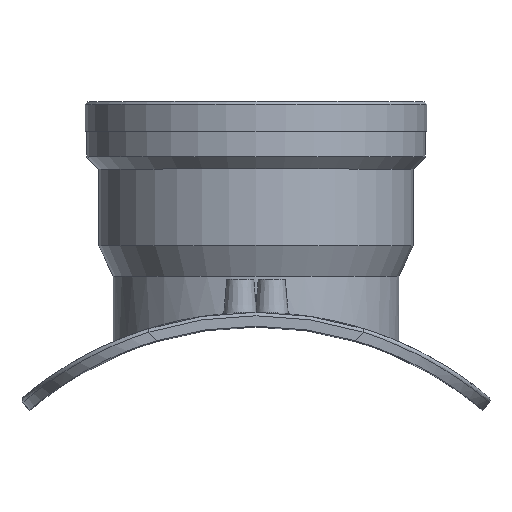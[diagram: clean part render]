
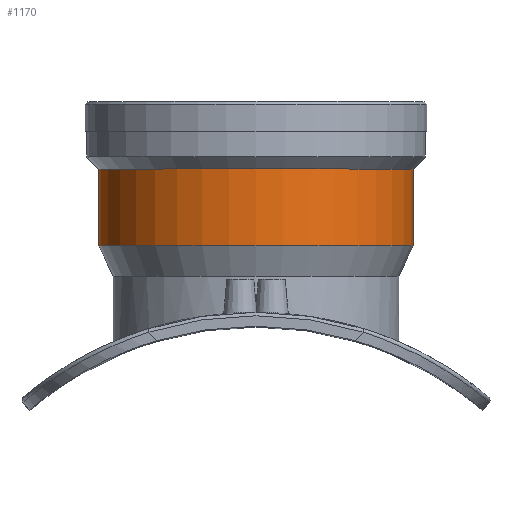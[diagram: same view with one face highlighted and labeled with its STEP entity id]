
A CAD part, top view. The second image highlights one B-rep face of the part: STEP entity #1170.
In plain terms, the highlighted cylindrical face has radius 87.273 mm (diameter 174.546 mm), a full revolution.
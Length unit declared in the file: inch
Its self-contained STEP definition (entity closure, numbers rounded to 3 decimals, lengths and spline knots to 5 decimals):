
#129=FACE_OUTER_BOUND('',#207,.T.);
#207=EDGE_LOOP('',(#1053,#1054,#1055,#1056,#1057,#1058));
#282=CIRCLE('',#1321,3.43594);
#283=CIRCLE('',#1322,3.43594);
#284=CIRCLE('',#1324,3.43594);
#285=CIRCLE('',#1325,3.43594);
#339=LINE('',#3074,#391);
#391=VECTOR('',#1648,3.43594);
#545=VERTEX_POINT('',#3064);
#546=VERTEX_POINT('',#3065);
#547=VERTEX_POINT('',#3070);
#548=VERTEX_POINT('',#3071);
#715=EDGE_CURVE('',#545,#546,#282,.T.);
#716=EDGE_CURVE('',#546,#545,#283,.T.);
#718=EDGE_CURVE('',#547,#548,#284,.T.);
#719=EDGE_CURVE('',#548,#547,#285,.T.);
#720=EDGE_CURVE('',#548,#546,#339,.T.);
#1053=ORIENTED_EDGE('',*,*,#718,.F.);
#1054=ORIENTED_EDGE('',*,*,#719,.F.);
#1055=ORIENTED_EDGE('',*,*,#720,.T.);
#1056=ORIENTED_EDGE('',*,*,#716,.T.);
#1057=ORIENTED_EDGE('',*,*,#715,.T.);
#1058=ORIENTED_EDGE('',*,*,#720,.F.);
#1103=CYLINDRICAL_SURFACE('',#1323,3.43594);
#1170=ADVANCED_FACE('',(#129),#1103,.T.);
#1321=AXIS2_PLACEMENT_3D('',#3066,#1637,#1638);
#1322=AXIS2_PLACEMENT_3D('',#3067,#1639,#1640);
#1323=AXIS2_PLACEMENT_3D('',#3069,#1642,#1643);
#1324=AXIS2_PLACEMENT_3D('',#3072,#1644,#1645);
#1325=AXIS2_PLACEMENT_3D('',#3073,#1646,#1647);
#1637=DIRECTION('center_axis',(0.,1.,0.));
#1638=DIRECTION('ref_axis',(1.,0.,0.));
#1639=DIRECTION('center_axis',(0.,1.,0.));
#1640=DIRECTION('ref_axis',(1.,0.,0.));
#1642=DIRECTION('center_axis',(0.,1.,0.));
#1643=DIRECTION('ref_axis',(0.,0.,1.));
#1644=DIRECTION('center_axis',(0.,1.,0.));
#1645=DIRECTION('ref_axis',(1.,0.,0.));
#1646=DIRECTION('center_axis',(0.,1.,0.));
#1647=DIRECTION('ref_axis',(1.,0.,0.));
#1648=DIRECTION('',(0.,-1.,0.));
#3064=CARTESIAN_POINT('',(0.,9.38417,3.43594));
#3065=CARTESIAN_POINT('',(0.,9.38417,-3.43594));
#3066=CARTESIAN_POINT('Origin',(0.,9.38417,0.));
#3067=CARTESIAN_POINT('Origin',(0.,9.38417,0.));
#3069=CARTESIAN_POINT('Origin',(0.,10.22117,0.));
#3070=CARTESIAN_POINT('',(0.,11.05817,3.43594));
#3071=CARTESIAN_POINT('',(0.,11.05817,-3.43594));
#3072=CARTESIAN_POINT('Origin',(0.,11.05817,0.));
#3073=CARTESIAN_POINT('Origin',(0.,11.05817,0.));
#3074=CARTESIAN_POINT('',(0.,10.22117,-3.43594));
